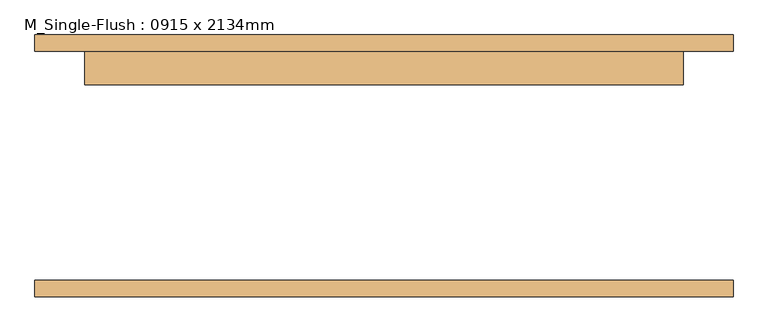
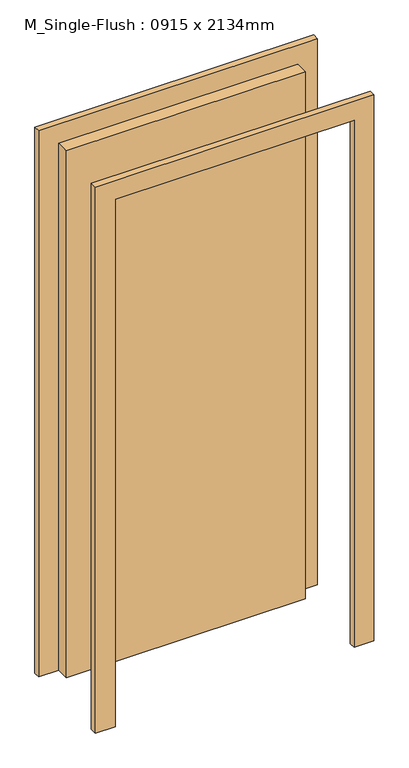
"""IFC4 building model written with IfcOpenShell, lengths in millimetres: door geometry, M_Single-Flush : 0915 x 2134mm."""

from ifc_helpers import new_model, si_unit, frame, origin, origin_with_axes, place, context, project, spatial, polyline, outline, extrude, source, transform, mapped, element, save


def m_single_flush_0915_x_2134mm_1eac8bb1(model_context):
    return source(origin(), model_context, "Body", "SweptSolid", [
        extrude(outline(polyline([(2210.0, -533.5), (0.0, -533.5), (0.0, -457.5), (2134.0, -457.5), (2134.0, 457.5), (0.0, 457.5), (0.0, 533.5), (2210.0, 533.5), (2210.0, -533.5)])), frame((0.0, 175.0, 0.0), z_axis=(0.0, 1.0, 0.0), x_axis=(0.0, 0.0, 1.0)), (0.0, 0.0, 1.0), 25.0),
        extrude(outline(polyline([(2210.0, 533.5), (2210.0, -533.5), (0.0, -533.5), (0.0, -457.5), (2134.0, -457.5), (2134.0, 457.5), (0.0, 457.5), (0.0, 533.5), (2210.0, 533.5)])), frame((0.0, -200.0, 0.0), z_axis=(0.0, 1.0, 0.0), x_axis=(0.0, 0.0, 1.0)), (0.0, 0.0, 1.0), 25.0),
        extrude(outline(polyline([(457.5, 124.0), (-457.5, 124.0), (-457.5, 175.0), (457.5, 175.0), (457.5, 124.0)])), origin_with_axes(), (0.0, 0.0, 1.0), 2134.0),
    ])


if __name__ == "__main__":
    model = new_model("IFC4")
    model_context = context("Model", 3, world=origin())
    ifc_project = project(units=[si_unit("LENGTHUNIT", "METRE", prefix="MILLI")], contexts=[model_context])
    site = spatial("IfcSite", under=ifc_project)
    building = spatial("IfcBuilding", under=site)
    placement = place(None, origin())
    m_single_flush_0915_x_2134mm_shape = m_single_flush_0915_x_2134mm_1eac8bb1(model_context)
    element("IfcDoor", 1, ObjectType="M_Single-Flush : 0915 x 2134mm", at=placement, inside=building, context=model_context, shape_type="MappedRepresentation", body=[
        mapped(m_single_flush_0915_x_2134mm_shape, transform((0.0, 0.0, 0.0), x_axis=(1.0, 0.0, 0.0), y_axis=(0.0, 1.0, 0.0), z_axis=(0.0, 0.0, 1.0))),
    ])
    save(model, "model.ifc")
